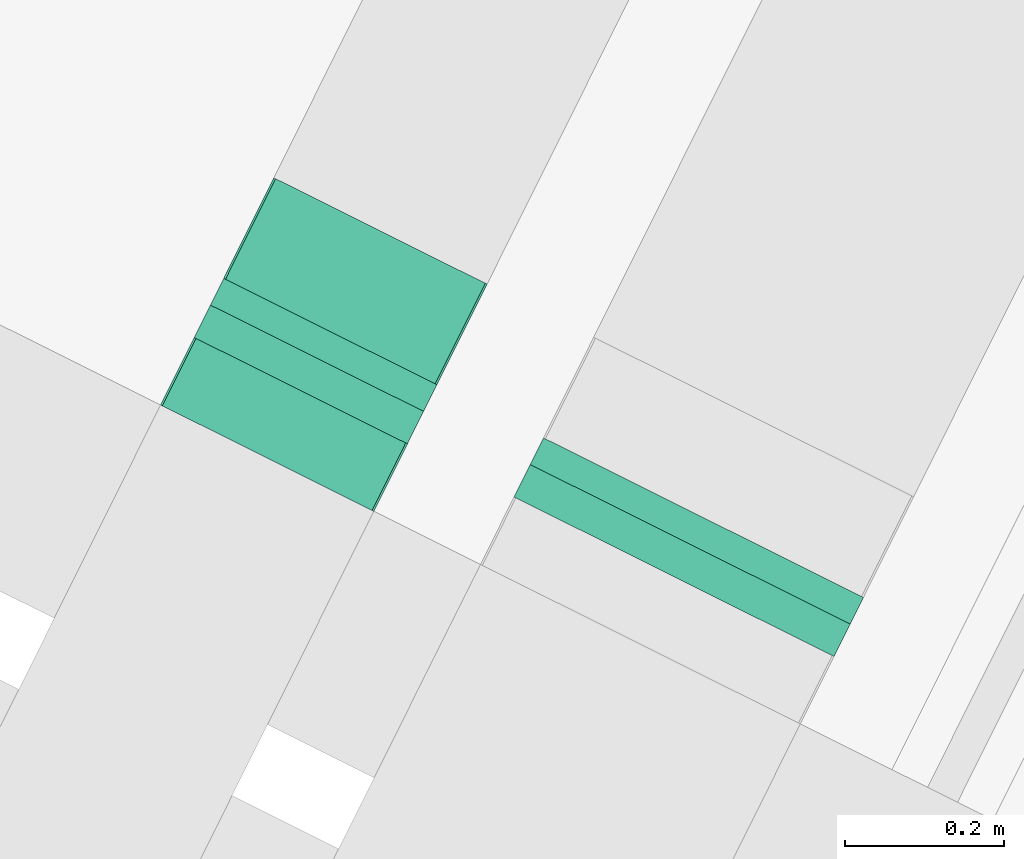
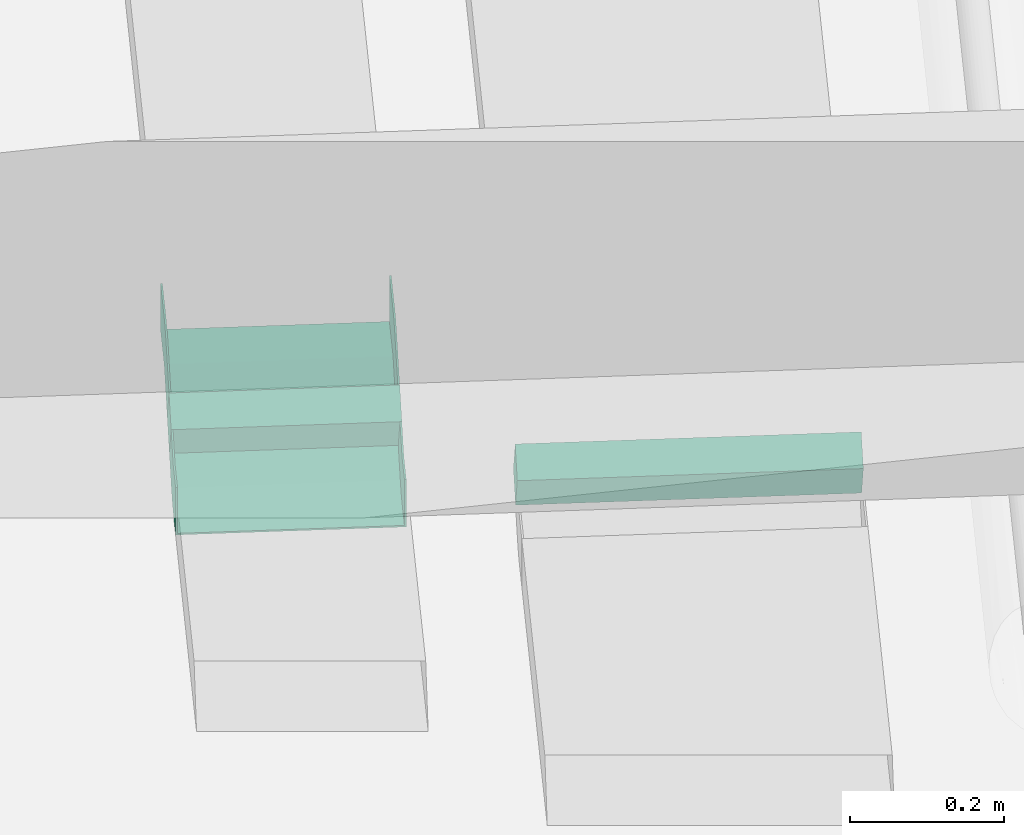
# One storey, part 31 of 47: 2 flow fittings, 2 flow segments.
"""IFC2X3 building model written with IfcOpenShell, lengths in metres."""

import ifcopenshell
import ifcopenshell.guid

model = None  # the IFC model being written
_history = None  # IfcOwnerHistory: only IFC2X3 demands one
_inside = {}  # id of a spatial element -> (the spatial element, [elements in it])
_under = {}  # id of a project, library or spatial element -> (it, [spatial elements below it])
_declared = {}  # id of a project -> (the project, [libraries it declares])
_typed = {}  # id of a type object -> (the type object, [elements of that type])
_made_of = {}  # id of a material, layer set ... -> (it, [elements and type objects made of it])


def new_model(schema):
    """Start an empty IFC model of exactly this schema.

    Asked for "IFC4X3", IfcOpenShell would pick the latest addendum, in which some entities
    have other attributes; the version numbers below select the first issue.
    IFC2X3 requires an IfcOwnerHistory on every rooted entity: one is made here for all.
    """
    global model, _history
    if schema == "IFC4X3":
        model = ifcopenshell.file(schema_version=(4, 3, 0, 0))
    else:
        model = ifcopenshell.file(schema=schema)
    _inside.clear()
    _under.clear()
    _declared.clear()
    _typed.clear()
    _made_of.clear()
    _history = None
    if model.schema == "IFC2X3":
        org = make("IfcOrganization", Name="unknown")
        user = make(
            "IfcPersonAndOrganization",
            ThePerson=make("IfcPerson", FamilyName="unknown"),
            TheOrganization=org,
        )
        app = make(
            "IfcApplication",
            ApplicationDeveloper=org,
            Version="unknown",
            ApplicationFullName="unknown",
            ApplicationIdentifier="unknown",
        )
        _history = make(
            "IfcOwnerHistory",
            OwningUser=user,
            OwningApplication=app,
            ChangeAction="ADDED",
            CreationDate=0,
        )
    return model


def make(cls, **values):
    """One entity of the class cls with the attributes given. An attribute that is None is left unset."""
    return model.create_entity(
        cls, **{name: value for name, value in values.items() if value is not None}
    )


def entity(cls, *values):
    """Any entity or typed value of the class cls, its attributes in the order of the schema. None: left unset."""
    e = model.create_entity(cls)
    for i, value in enumerate(values):
        if value is not None:
            e[i] = value
    return e


def rooted(cls, **values):
    """An entity with a GlobalId (a new one), such as an element, a storey or a relation."""
    return make(cls, GlobalId=ifcopenshell.guid.new(), OwnerHistory=_history, **values)


def si_unit(unit_type, name, prefix=None):
    """IfcSIUnit, for example si_unit("LENGTHUNIT", "METRE", prefix="MILLI")."""
    return make("IfcSIUnit", UnitType=unit_type, Prefix=prefix, Name=name)


def converted_unit(unit_type, name, factor, base, dimensions=None, offset=None):
    """IfcConversionBasedUnit, such as the inch: factor (a typed value) times the base unit."""
    return make(
        "IfcConversionBasedUnit"
        if offset is None
        else "IfcConversionBasedUnitWithOffset",
        ConversionOffset=offset,
        Dimensions=None
        if dimensions is None
        else entity("IfcDimensionalExponents", *dimensions),
        UnitType=unit_type,
        Name=name,
        ConversionFactor=make(
            "IfcMeasureWithUnit", ValueComponent=factor, UnitComponent=base
        ),
    )


def derived_unit(unit_type, elements):
    """IfcDerivedUnit: a product of units, each with its exponent."""
    return make(
        "IfcDerivedUnit",
        Elements=[
            make("IfcDerivedUnitElement", Unit=unit, Exponent=power)
            for unit, power in elements
        ],
        UnitType=unit_type,
    )


def assignment(units):
    """IfcUnitAssignment: the units of a project."""
    return None if units is None else make("IfcUnitAssignment", Units=units)


def point(xyz):
    """IfcCartesianPoint."""
    return None if xyz is None else make("IfcCartesianPoint", Coordinates=xyz)


def direction(xyz):
    """IfcDirection."""
    return None if xyz is None else make("IfcDirection", DirectionRatios=xyz)


def frame(location, z_axis=None, x_axis=None):
    """IfcAxis2Placement3D, a coordinate frame: its origin and axes. An axis left out is left unset."""
    return make(
        "IfcAxis2Placement3D",
        Location=point(location),
        Axis=direction(z_axis),
        RefDirection=direction(x_axis),
    )


def frame_2d(location, x_axis=None):
    """IfcAxis2Placement2D, a coordinate frame in the plane: its origin and x axis."""
    return make(
        "IfcAxis2Placement2D", Location=point(location), RefDirection=direction(x_axis)
    )


def origin():
    """The frame at (0, 0, 0) with its axes left unset."""
    return frame((0.0, 0.0, 0.0))


def place(relative_to, where):
    """IfcLocalPlacement: puts the frame where relative to a parent placement (None: the world)."""
    return make(
        "IfcLocalPlacement", PlacementRelTo=relative_to, RelativePlacement=where
    )


def context(
    kind, dimensions, precision=None, world=None, true_north=None, identifier=None
):
    """IfcGeometricRepresentationContext, for example the 3D "Model" context."""
    return make(
        "IfcGeometricRepresentationContext",
        ContextIdentifier=identifier,
        ContextType=kind,
        CoordinateSpaceDimension=dimensions,
        Precision=precision,
        WorldCoordinateSystem=world,
        TrueNorth=true_north,
    )


def subcontext(parent, identifier, kind, view, scale=None):
    """IfcGeometricRepresentationSubContext, for example "Body" below "Model"."""
    return make(
        "IfcGeometricRepresentationSubContext",
        ContextIdentifier=identifier,
        ContextType=kind,
        ParentContext=parent,
        TargetScale=scale,
        TargetView=view,
    )


def project(units=None, contexts=None):
    """IfcProject with its units and contexts."""
    return rooted(
        "IfcProject",
        Name="project",
        RepresentationContexts=contexts,
        UnitsInContext=assignment(units),
    )


def spatial(cls, under=None, at=None, **own):
    """A site, building, storey or space (cls), placed at a placement, below another one or the project."""
    s = rooted(cls, ObjectPlacement=at, **own)
    if under is not None:
        _under.setdefault(under.id(), (under, []))[1].append(s)
    return s


def profile(cls, at=None, kind="AREA", **sizes):
    """A parametric profile (cls). Its sizes go by their IFC names, for example OverallWidth=200.0."""
    return make(cls, ProfileType=kind, Position=at, **sizes)


def rectangle(**sizes):
    """IfcRectangleProfileDef."""
    return profile("IfcRectangleProfileDef", **sizes)


def extrude(swept, where, along, depth):
    """IfcExtrudedAreaSolid: the profile swept, set in the frame where, extruded along a direction by depth."""
    return make(
        "IfcExtrudedAreaSolid",
        SweptArea=swept,
        Position=where,
        ExtrudedDirection=direction(along),
        Depth=depth,
    )


def faces_of(points, faces, orient=None, outer=None):
    """IfcFace entities. A face is a list of loops; a loop is a list of indices into points, from 0.

    orient and outer hold one flag for each loop. By default every Orientation is true, the
    first loop of a face is its IfcFaceOuterBound and the others are IfcFaceBound.
    """
    made = []
    for i, loops in enumerate(faces):
        bounds = []
        for j, loop in enumerate(loops):
            is_outer = j == 0 if outer is None else outer[i][j]
            bounds.append(
                make(
                    "IfcFaceOuterBound" if is_outer else "IfcFaceBound",
                    Bound=make("IfcPolyLoop", Polygon=[points[k] for k in loop]),
                    Orientation=True if orient is None else orient[i][j],
                )
            )
        made.append(make("IfcFace", Bounds=bounds))
    return made


def faceted_brep(points, faces, orient=None, outer=None, voids=None):
    """IfcFacetedBrep: a solid bounded by flat faces; with voids (closed shells), ...WithVoids."""
    shared = [point(p) for p in points]
    hull = make("IfcClosedShell", CfsFaces=faces_of(shared, faces, orient, outer))
    if voids is None:
        return make("IfcFacetedBrep", Outer=hull)
    return make(
        "IfcFacetedBrepWithVoids",
        Outer=hull,
        Voids=[
            make(cls, CfsFaces=faces_of(shared, fs, o, b)) for cls, fs, o, b in voids
        ],
    )


def shape(context_of_items, identifier, shape_type, items):
    """IfcShapeRepresentation: the items that make up one representation, for example the "Body"."""
    return make(
        "IfcShapeRepresentation",
        ContextOfItems=context_of_items,
        RepresentationIdentifier=identifier,
        RepresentationType=shape_type,
        Items=items,
    )


def source(mapping_origin, context_of_items, identifier, shape_type, items):
    """IfcRepresentationMap: a shape defined once, which mapped items show again and again."""
    return make(
        "IfcRepresentationMap",
        MappingOrigin=mapping_origin,
        MappedRepresentation=shape(context_of_items, identifier, shape_type, items),
    )


def transform(
    local_origin,
    x_axis=None,
    y_axis=None,
    z_axis=None,
    scale=None,
    scale2=None,
    scale3=None,
    uniform=True,
):
    """IfcCartesianTransformationOperator3D, or its non-uniform kind. x_axis, y_axis, z_axis: its Axis1, 2, 3."""
    if uniform:
        return make(
            "IfcCartesianTransformationOperator3D",
            Axis1=direction(x_axis),
            Axis2=direction(y_axis),
            LocalOrigin=point(local_origin),
            Scale=scale,
            Axis3=direction(z_axis),
        )
    return make(
        "IfcCartesianTransformationOperator3DnonUniform",
        Axis1=direction(x_axis),
        Axis2=direction(y_axis),
        LocalOrigin=point(local_origin),
        Scale=scale,
        Axis3=direction(z_axis),
        Scale2=scale2,
        Scale3=scale3,
    )


def mapped(mapping_source, mapping_target):
    """IfcMappedItem: shows the shape of a source again, moved by a transform."""
    return make(
        "IfcMappedItem", MappingSource=mapping_source, MappingTarget=mapping_target
    )


def made_of(thing, what):
    """Note that an element or type object is made of a material, layer set ...; save() writes the relation."""
    if what is not None:
        _made_of.setdefault(what.id(), (what, []))[1].append(thing)
    return thing


def type_object(cls, material=None, **own):
    """A type object (cls), such as IfcWallType, which elements share."""
    return made_of(rooted(cls, **own), material)


def type_shapes(of_type, sources):
    """Give a type object the sources (RepresentationMaps) that its elements show as mapped items."""
    of_type.RepresentationMaps = sources


def element(
    cls,
    number,
    at=None,
    inside=None,
    cuts=None,
    type_object=None,
    material=None,
    context=None,
    identifier="Body",
    shape_type=None,
    held_by="IfcProductDefinitionShape",
    body=None,
    shapes=None,
    **own,
):
    """One element of the class cls, such as IfcWall. Its Tag is "e" and its number.

    at: its placement. inside: the storey or other place that contains it. cuts: it is an
    opening in that element (IfcRelVoidsElement). A single representation is given by context,
    identifier, shape_type and body (its items); several are given by shapes. held_by: the class
    of the entity that holds the representations. save() writes the other relations.
    """
    e = rooted(cls, Tag="e%d" % number, ObjectPlacement=at, **own)
    if body is not None:
        shapes = [shape(context, identifier, shape_type, body)]
    if shapes is not None:
        e.Representation = make(held_by, Representations=shapes)
    if inside is not None:
        _inside.setdefault(inside.id(), (inside, []))[1].append(e)
    if cuts is not None:
        rooted(
            "IfcRelVoidsElement", RelatingBuildingElement=cuts, RelatedOpeningElement=e
        )
    if type_object is not None:
        _typed.setdefault(type_object.id(), (type_object, []))[1].append(e)
    return made_of(e, material)


def aggregate(whole, parts):
    """IfcRelAggregates: a whole, such as a stair, and the parts it consists of."""
    return rooted("IfcRelAggregates", RelatingObject=whole, RelatedObjects=parts)


def save(model, path):
    """Write the relations noted so far, then the file.

    IfcRelAggregates (storeys below a building ...), IfcRelContainedInSpatialStructure (elements
    in a storey), IfcRelDefinesByType, IfcRelAssociatesMaterial and IfcRelDeclares: one each for
    every whole, place, type object, material and project.
    """
    for whole, parts in _under.values():
        aggregate(whole, parts)
    for where, things in _inside.values():
        rooted(
            "IfcRelContainedInSpatialStructure",
            RelatedElements=things,
            RelatingStructure=where,
        )
    for kind, things in _typed.values():
        rooted("IfcRelDefinesByType", RelatedObjects=things, RelatingType=kind)
    for what, things in _made_of.values():
        rooted("IfcRelAssociatesMaterial", RelatedObjects=things, RelatingMaterial=what)
    for by, libraries in _declared.values():
        rooted("IfcRelDeclares", RelatingContext=by, RelatedDefinitions=libraries)
    model.write(path)


model = new_model("IFC2X3")

# Units and contexts
model_context = context("Model", 3, precision=1e-05, world=origin(), true_north=direction((0.894925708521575, 0.446215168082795)))
context_of_model = context(None, 3, precision=1e-05, world=origin(), true_north=direction((0.894925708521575, 0.446215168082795)))
body_context = subcontext(model_context, "Body", "Model", "MODEL_VIEW")
ifc_project = project(units=[si_unit("LENGTHUNIT", "METRE"), si_unit("AREAUNIT", "SQUARE_METRE"), si_unit("VOLUMEUNIT", "CUBIC_METRE"), converted_unit("PLANEANGLEUNIT", "DEGREE", entity("IfcRatioMeasure", 0.0174532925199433), si_unit("PLANEANGLEUNIT", "RADIAN"), dimensions=[0, 0, 0, 0, 0, 0, 0]), si_unit("MASSUNIT", "GRAM", prefix="KILO"), si_unit("TIMEUNIT", "SECOND"), si_unit("FREQUENCYUNIT", "HERTZ"), si_unit("THERMODYNAMICTEMPERATUREUNIT", "DEGREE_CELSIUS"), derived_unit("THERMALTRANSMITTANCEUNIT", [(si_unit("MASSUNIT", "GRAM", prefix="KILO"), 1), (si_unit("THERMODYNAMICTEMPERATUREUNIT", "KELVIN"), -1), (si_unit("TIMEUNIT", "SECOND"), -3)]), derived_unit("VOLUMETRICFLOWRATEUNIT", [(si_unit("LENGTHUNIT", "METRE"), 3), (si_unit("TIMEUNIT", "SECOND"), -1)]), si_unit("ELECTRICCURRENTUNIT", "AMPERE"), si_unit("ELECTRICVOLTAGEUNIT", "VOLT"), si_unit("POWERUNIT", "WATT"), si_unit("FORCEUNIT", "NEWTON", prefix="KILO"), si_unit("ILLUMINANCEUNIT", "LUX"), si_unit("LUMINOUSFLUXUNIT", "LUMEN"), si_unit("LUMINOUSINTENSITYUNIT", "CANDELA"), si_unit("PRESSUREUNIT", "PASCAL")], contexts=[model_context, context_of_model])

# Site, building, storey
site_placement = place(None, frame((218.228324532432, 584.720189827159, 0.0), z_axis=(0.0, 0.0, 1.0), x_axis=(0.446215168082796, 0.894925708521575, 0.0)))
site = spatial("IfcSite", under=ifc_project, at=site_placement, Name="Default", CompositionType="ELEMENT")
building_placement = place(site_placement, origin())
building = spatial("IfcBuilding", under=site, at=building_placement, CompositionType="ELEMENT")
storey_placement = place(building_placement, frame((0.0, 0.0, 4.69)))
storey = spatial("IfcBuildingStorey", under=building, at=storey_placement, Name="1 - Piano Primo", CompositionType="ELEMENT", Elevation=4.69)

# Flow segments
cable_carrier_segment_type = type_object("IfcCableCarrierSegmentType", Name="Passerella con raccordi:Passerella canale", PredefinedType="NOTDEFINED")
flow_segment_1_placement = place(storey_placement, frame((11.5890862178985, -3.35107899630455, 2.92822448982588)))
element("IfcFlowSegment", 1, at=flow_segment_1_placement, inside=storey, type_object=cable_carrier_segment_type, Name="Passerella con raccordi:Passerella canale", ObjectType="Passerella con raccordi:Passerella canale", context=body_context, shape_type="SweptSolid", body=[
    extrude(rectangle(XDim=0.0749999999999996, YDim=0.0527002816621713, at=frame_2d((-2.70616862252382e-16, 4.68375338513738e-16), x_axis=(0.0, 1.0))), frame((0.0415698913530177, 0.0, 0.0456510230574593), z_axis=(0.0, 1.0, 0.0), x_axis=(0.866025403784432, 0.0, 0.500000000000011)), (0.0, 0.0, 1.0), 0.3),
])
flow_segment_2_placement = place(storey_placement, frame((11.5890862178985, -3.95107899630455, 2.82822448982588)))
element("IfcFlowSegment", 2, at=flow_segment_2_placement, inside=storey, type_object=cable_carrier_segment_type, Name="Passerella con raccordi:Passerella canale", ObjectType="Passerella con raccordi:Passerella canale", context=body_context, shape_type="SweptSolid", body=[
    extrude(rectangle(XDim=0.0749999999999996, YDim=0.0527002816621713, at=frame_2d((0.0, 0.0), x_axis=(0.0, 1.0))), frame((0.0415698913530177, 0.0, 0.0456510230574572), z_axis=(0.0, 1.0, 0.0), x_axis=(0.866025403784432, 0.0, 0.500000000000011)), (0.0, 0.0, 1.0), 0.450000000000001),
])

# Flow fittings
cable_carrier_fitting_type_1 = type_object("IfcCableCarrierFittingType", Name="Standard", PredefinedType="NOTDEFINED")
shared_shape_1 = source(origin(), body_context, "Body", "Brep", [
    faceted_brep([(-0.0608988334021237, -0.0349600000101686, -0.147460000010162), (-0.0608988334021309, 0.0374999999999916, -0.147460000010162), (-0.0608988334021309, 0.0374999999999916, -0.150000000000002), (-0.0608988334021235, -0.0375000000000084, -0.150000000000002), (-0.0608988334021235, -0.0375000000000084, 0.149999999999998), (-0.0608988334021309, 0.0374999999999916, 0.149999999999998), (-0.0608988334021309, 0.0374999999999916, 0.147460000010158), (-0.0608988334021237, -0.0349600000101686, 0.147460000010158), (0.0339899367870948, 0.0629253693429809, -0.150000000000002), (0.0339899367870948, 0.0629253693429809, -0.147460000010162), (0.0702199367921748, 0.000173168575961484, -0.147460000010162), (0.0702199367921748, 0.000173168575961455, 0.147460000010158), (0.0339899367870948, 0.0629253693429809, 0.147460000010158), (0.0339899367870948, 0.0629253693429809, 0.149999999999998), (0.0714899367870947, -0.00202653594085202, 0.149999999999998), (0.0714899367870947, -0.00202653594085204, -0.150000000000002), (-0.0108988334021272, -0.0375000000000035, 0.149999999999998), (0.00933434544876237, -0.0348362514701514, 0.149999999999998), (0.0281886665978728, -0.027026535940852, 0.149999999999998), (-0.00931133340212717, 0.0379253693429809, 0.149999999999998), (-0.0100770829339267, 0.0376081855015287, 0.149999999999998), (-0.0108988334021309, 0.0374999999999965, 0.149999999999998), (-0.0108988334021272, -0.0375000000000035, -0.150000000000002), (-0.0108988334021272, -0.0375000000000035, -0.00436238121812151), (-0.0108988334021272, 0.0374999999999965, -0.150000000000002), (-0.0100770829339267, 0.0376081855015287, -0.150000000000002), (-0.00931133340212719, 0.037925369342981, -0.150000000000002), (0.0281886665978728, -0.027026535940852, -0.150000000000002), (0.00933434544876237, -0.0348362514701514, -0.150000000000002), (-0.0108988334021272, 0.0374999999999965, -0.147460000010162), (-0.0108988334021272, 0.0374999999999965, 0.147460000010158), (-0.0108988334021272, -0.0349600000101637, -0.147460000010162), (0.00867694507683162, -0.0323827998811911, -0.147460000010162), (0.0269186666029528, -0.0248268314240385, -0.147460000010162), (-0.00931133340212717, 0.0379253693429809, -0.147460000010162), (-0.0100770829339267, 0.0376081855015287, -0.147460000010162), (-0.0108988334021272, -0.0349600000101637, 0.147460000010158), (-0.0108988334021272, -0.0349600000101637, -0.00437396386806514), (-0.0100770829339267, 0.0376081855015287, 0.147460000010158), (-0.00931133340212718, 0.0379253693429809, 0.147460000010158), (0.0269186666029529, -0.0248268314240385, 0.147460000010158), (0.00867694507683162, -0.0323827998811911, 0.147460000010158), (0.00517118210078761, -0.0358304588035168, 0.0), (0.0281886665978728, -0.027026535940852, -0.00436237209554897), (0.00483151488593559, -0.0333061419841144, 0.0), (0.0269186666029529, -0.0248268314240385, -0.00437395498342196)], [[[0, 1, 2, 3, 4, 5, 6, 7]], [[8, 9, 10, 11, 12, 13, 14, 15]], [[4, 16, 17, 18, 14, 13, 19, 20, 21, 5]], [[4, 3, 22, 23, 16]], [[2, 24, 25, 26, 8, 15, 27, 28, 22, 3]], [[2, 1, 29, 24]], [[6, 5, 21, 30]], [[0, 31, 32, 33, 10, 9, 34, 35, 29, 1]], [[0, 7, 36, 37, 31]], [[6, 30, 38, 39, 12, 11, 40, 41, 36, 7]], [[16, 23, 22, 42]], [[43, 28, 27]], [[43, 18, 17]], [[42, 22, 28]], [[43, 17, 42]], [[43, 42, 28]], [[16, 42, 17]], [[29, 35, 25, 24]], [[20, 38, 30, 21]], [[34, 26, 25, 35]], [[19, 39, 38, 20]], [[44, 31, 37, 36]], [[33, 32, 45]], [[41, 40, 45]], [[32, 31, 44]], [[44, 41, 45]], [[32, 44, 45]], [[41, 44, 36]], [[15, 14, 18, 43, 27]], [[26, 34, 9, 8]], [[39, 19, 13, 12]], [[11, 10, 33, 45, 40]]]),
])
type_shapes(cable_carrier_fitting_type_1, [shared_shape_1])
flow_fitting_1_placement = place(storey_placement, frame((11.5550962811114, -3.20107899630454, 2.93025102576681), z_axis=(0.0, -1.0, 0.0), x_axis=(1.0, 0.0, 0.0)))
element("IfcFlowFitting", 3, at=flow_fitting_1_placement, inside=storey, type_object=cable_carrier_fitting_type_1, Name="M_Curvatura interna verticale canale:Standard", ObjectType="Standard", context=body_context, shape_type="MappedRepresentation", body=[
    mapped(shared_shape_1, transform((0.0, 0.0, 0.0), scale=1.0)),
])
cable_carrier_fitting_type_2 = type_object("IfcCableCarrierFittingType", Name="Standard", PredefinedType="NOTDEFINED")
shared_shape_2 = source(origin(), body_context, "Body", "Brep", [
    faceted_brep([(-0.0858988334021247, -0.0375000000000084, -0.150000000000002), (-0.0858988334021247, -0.0375000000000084, -0.147460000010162), (-0.0858988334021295, 0.0349600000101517, -0.147460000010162), (-0.0858988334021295, 0.0349600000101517, 0.147460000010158), (-0.0858988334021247, -0.0375000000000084, 0.147460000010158), (-0.0858988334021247, -0.0375000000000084, 0.149999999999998), (-0.0858988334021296, 0.0374999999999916, 0.149999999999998), (-0.0858988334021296, 0.0374999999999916, -0.150000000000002), (0.0556405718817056, 0.0754253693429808, -0.150000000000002), (0.0556405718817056, 0.0754253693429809, 0.149999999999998), (0.0931405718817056, 0.0104734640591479, 0.149999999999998), (0.0931405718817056, 0.0104734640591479, 0.147460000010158), (0.0569105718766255, 0.0732256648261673, 0.147460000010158), (0.0569105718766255, 0.0732256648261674, -0.147460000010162), (0.0931405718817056, 0.0104734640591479, -0.147460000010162), (0.0931405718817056, 0.0104734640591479, -0.150000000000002), (-0.0108988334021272, -0.0375000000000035, 0.149999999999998), (-0.000782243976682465, -0.0361681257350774, 0.149999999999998), (0.0093343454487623, -0.0348362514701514, 0.149999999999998), (0.0187615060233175, -0.0309313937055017, 0.149999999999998), (0.0281886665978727, -0.027026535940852, 0.149999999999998), (-0.00931133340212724, 0.0379253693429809, 0.149999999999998), (-0.0100770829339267, 0.0376081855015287, 0.149999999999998), (-0.0108988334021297, 0.0374999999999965, 0.149999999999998), (-0.0108988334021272, 0.0374999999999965, 0.142222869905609), (-0.0108988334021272, 0.0374999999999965, 0.136736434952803), (-0.0108988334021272, 0.0374999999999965, 0.131249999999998), (-0.0108988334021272, 0.0374999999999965, 0.121874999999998), (-0.0108988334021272, 0.0374999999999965, 0.112499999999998), (-0.0108988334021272, 0.0374999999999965, 0.103124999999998), (-0.0108988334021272, 0.0374999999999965, 0.0937499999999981), (-0.0108988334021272, 0.0374999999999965, 0.0890624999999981), (-0.0108988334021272, 0.0374999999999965, 0.0843749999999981), (-0.0108988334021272, 0.0374999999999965, 0.0749999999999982), (-0.0108988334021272, 0.0374999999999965, 0.0656249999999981), (-0.0108988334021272, 0.0374999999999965, 0.0562499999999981), (-0.0108988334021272, 0.0374999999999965, 0.0468749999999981), (-0.0108988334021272, 0.0374999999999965, 0.0374999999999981), (-0.0108988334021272, 0.0374999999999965, 0.0328124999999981), (-0.0108988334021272, 0.0374999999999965, 0.0281249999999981), (-0.0108988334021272, 0.0374999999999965, 0.0187499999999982), (-0.0108988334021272, 0.0374999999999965, 0.00937499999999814), (-0.0108988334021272, 0.0374999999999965, 0.00468749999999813), (-0.0108988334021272, 0.0374999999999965, 0.0), (-0.0108988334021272, 0.0374999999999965, -0.00548643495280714), (-0.0108988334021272, 0.0374999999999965, -0.0109728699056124), (-0.0108988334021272, 0.0374999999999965, -0.0164593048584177), (-0.0108988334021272, 0.0374999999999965, -0.021945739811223), (-0.0108988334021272, 0.0374999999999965, -0.0274321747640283), (-0.0108988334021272, 0.0374999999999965, -0.0329186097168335), (-0.0108988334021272, 0.0374999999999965, -0.0384050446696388), (-0.0108988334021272, 0.0374999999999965, -0.0438914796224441), (-0.0108988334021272, 0.0374999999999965, -0.0493779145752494), (-0.0108988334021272, 0.0374999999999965, -0.0548643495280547), (-0.0108988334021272, 0.0374999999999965, -0.06035078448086), (-0.0108988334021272, 0.0374999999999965, -0.0658372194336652), (-0.0108988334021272, 0.0374999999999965, -0.0713236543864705), (-0.0108988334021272, 0.0374999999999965, -0.0768100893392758), (-0.0108988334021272, 0.0374999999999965, -0.0822965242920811), (-0.0108988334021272, 0.0374999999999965, -0.0877829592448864), (-0.0108988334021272, 0.0374999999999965, -0.0955600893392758), (-0.0108988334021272, 0.0374999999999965, -0.103337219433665), (-0.0108988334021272, 0.0374999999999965, -0.111114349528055), (-0.0108988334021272, 0.0374999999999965, -0.118891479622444), (-0.0108988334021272, 0.0374999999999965, -0.126668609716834), (-0.0108988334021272, 0.0374999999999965, -0.134445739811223), (-0.0108988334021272, 0.0374999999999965, -0.142222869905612), (-0.0108988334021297, 0.0374999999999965, -0.150000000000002), (-0.0100770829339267, 0.0376081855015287, -0.150000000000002), (-0.00931133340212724, 0.0379253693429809, -0.150000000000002), (0.0281886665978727, -0.027026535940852, -0.150000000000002), (0.0187615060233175, -0.0309313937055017, -0.150000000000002), (0.0093343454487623, -0.0348362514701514, -0.150000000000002), (-0.00136101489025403, -0.0362443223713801, -0.150000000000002), (-0.0108988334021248, -0.0375000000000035, -0.150000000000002), (-0.0108988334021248, -0.0375000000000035, -0.147460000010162), (-0.0108988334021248, -0.0375000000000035, 0.147460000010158), (-0.000782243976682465, -0.0361681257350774, -0.147460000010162), (0.0093343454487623, -0.0348362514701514, -0.147460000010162), (0.0187615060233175, -0.0309313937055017, -0.147460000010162), (0.0281886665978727, -0.027026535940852, -0.147460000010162), (-0.00804133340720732, 0.0357256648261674, -0.147460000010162), (-0.00941968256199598, 0.0351547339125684, -0.147460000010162), (-0.0108988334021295, 0.0349600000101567, -0.147460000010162), (-0.0108988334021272, 0.0349600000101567, -0.137025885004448), (-0.0108988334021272, 0.0349600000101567, -0.126591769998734), (-0.0108988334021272, 0.0349600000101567, -0.11615765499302), (-0.0108988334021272, 0.0349600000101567, -0.105723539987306), (-0.0108988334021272, 0.0349600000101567, -0.0952894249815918), (-0.0108988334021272, 0.0349600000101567, -0.0848553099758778), (-0.0108988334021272, 0.0349600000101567, -0.0744211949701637), (-0.0108988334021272, 0.0349600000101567, -0.0639870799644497), (-0.0108988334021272, 0.0349600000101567, -0.0479903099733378), (-0.0108988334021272, 0.0349600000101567, -0.0319935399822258), (-0.0108988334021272, 0.0349600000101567, -0.0159967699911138), (-0.0108988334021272, 0.0349600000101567, 0.0), (-0.0108988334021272, 0.0349600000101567, 0.0184325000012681), (-0.0108988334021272, 0.0349600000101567, 0.0368650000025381), (-0.0108988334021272, 0.0349600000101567, 0.0552975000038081), (-0.0108988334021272, 0.0349600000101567, 0.0737300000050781), (-0.0108988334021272, 0.0349600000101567, 0.0921625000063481), (-0.0108988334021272, 0.0349600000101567, 0.110595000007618), (-0.0108988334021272, 0.0349600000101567, 0.12659176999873), (-0.0108988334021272, 0.0349600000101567, 0.137025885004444), (-0.0108988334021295, 0.0349600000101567, 0.147460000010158), (-0.00941968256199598, 0.0351547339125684, 0.147460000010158), (-0.00804133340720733, 0.0357256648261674, 0.147460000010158), (0.0281886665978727, -0.027026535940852, 0.147460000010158), (0.0193008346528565, -0.0307079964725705, 0.147460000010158), (0.0093343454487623, -0.0348362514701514, 0.147460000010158), (-0.000782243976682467, -0.0361681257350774, 0.147460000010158), (-0.0100160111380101, 0.0376252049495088, 0.0878571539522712), (-0.00931133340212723, 0.0379253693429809, -0.0786763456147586), (-0.0101159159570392, 0.0375980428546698, -0.0740668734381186), (-0.00931133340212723, 0.0379253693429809, -0.0677034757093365), (-0.00931133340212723, 0.0379253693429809, -0.0731899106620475), (-0.00931133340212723, 0.0379253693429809, -0.0512441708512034), (-0.00931133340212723, 0.0379253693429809, -0.0567306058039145), (-0.0101159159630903, 0.0375980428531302, -0.052121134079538), (-0.00931133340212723, 0.0379253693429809, -0.0457577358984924), (-0.0100430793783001, 0.0376174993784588, 0.017385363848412), (-0.0100062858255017, 0.0376280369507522, 0.0107980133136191), (-0.00999532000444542, 0.0376312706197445, 0.122780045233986), (-0.0101719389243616, 0.0375843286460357, 0.0236284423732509), (-0.00931133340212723, 0.0379253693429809, 0.0200794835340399), (-0.00931133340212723, 0.0379253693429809, -0.146111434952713), (-0.00931133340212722, 0.0379253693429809, 0.134445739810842), (-0.0100770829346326, 0.0376081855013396, 0.138334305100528), (-0.00931133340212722, 0.0379253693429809, 0.14222286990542), (-0.0100060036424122, 0.0376281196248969, -0.142569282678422), (-0.010097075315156, 0.0376028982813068, 0.0605630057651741), (-0.00931133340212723, 0.0379253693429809, 0.0566744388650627), (-0.0100663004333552, 0.0376110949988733, 0.054247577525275), (-0.0100389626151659, 0.0376186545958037, -0.119824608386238), (-0.0101157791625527, 0.0375980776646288, -0.129790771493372), (-0.01011591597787, 0.0375980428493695, -0.0301753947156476), (-0.0100662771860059, 0.0376111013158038, 0.0824060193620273), (-0.00931133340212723, 0.0379253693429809, 0.0800058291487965), (-0.0099977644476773, 0.0376305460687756, 0.0761172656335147), (-0.0100563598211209, 0.0376138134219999, 0.0388108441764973), (-0.00931133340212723, 0.0379253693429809, 0.0411201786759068), (-0.00931133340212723, 0.0379253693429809, 0.0333430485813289), (-0.00931133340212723, 0.0379253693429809, -0.0347848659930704), (-0.00931133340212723, 0.0379253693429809, -0.0238119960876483), (-0.00931133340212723, 0.0379253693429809, -0.0292984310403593), (-0.00931133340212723, 0.0379253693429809, -0.0128391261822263), (-0.0101159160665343, 0.0375980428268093, -0.00822965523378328), (-0.00931133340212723, 0.0379253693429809, -0.00186625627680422), (-0.00931133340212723, 0.0379253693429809, -0.00735269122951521), (-0.010022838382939, 0.0376232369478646, 0.144167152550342), (-0.00931133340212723, 0.0379253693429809, 0.0488973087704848), (-0.0100105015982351, 0.0376268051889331, 0.0450087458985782), (-0.0100992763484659, 0.0376023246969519, 0.00234375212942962), (-0.0101111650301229, 0.0375992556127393, 0.06937590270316), (-0.00931133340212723, 0.0379253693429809, 0.0145930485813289), (-0.0100494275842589, 0.0376157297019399, -0.136209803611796), (-0.0101258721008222, 0.0375955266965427, -0.0371719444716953), (-0.00931133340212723, 0.0379253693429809, -0.0402713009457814), (-0.0100191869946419, 0.0376242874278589, -0.0434785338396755), (-0.0101258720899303, 0.0375955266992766, -0.0591176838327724), (-0.0100602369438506, 0.0376127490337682, -0.0934055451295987), (-0.0100098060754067, 0.0376270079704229, -0.11311245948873), (-0.010067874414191, 0.0376106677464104, 0.0994486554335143), (-0.0100492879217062, 0.0376157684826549, 0.0933153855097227), (-0.00931133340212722, 0.0379253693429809, 0.111114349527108), (-0.00931133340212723, 0.0379253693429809, 0.10333721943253), (-0.010108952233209, 0.0375998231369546, 0.109805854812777), (-0.0100522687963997, 0.0376149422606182, 0.132170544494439), (-0.00931133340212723, 0.0379253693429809, -0.13902713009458), (-0.010106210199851, 0.0376005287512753, 0.116092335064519), (-0.00931133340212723, 0.0379253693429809, -0.133540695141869), (-0.0101258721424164, 0.0375955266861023, -0.0152262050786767), (-0.0100191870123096, 0.0376242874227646, -0.0215327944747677), (-0.00931133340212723, 0.0379253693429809, -0.0183255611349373), (-0.0101258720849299, 0.0375955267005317, -0.0810634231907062), (-0.0100191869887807, 0.037624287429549, -0.0654242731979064), (-0.00931133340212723, 0.0379253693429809, -0.0622170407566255), (-0.00931133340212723, 0.0379253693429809, -0.0896492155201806), (-0.00931133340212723, 0.0379253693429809, -0.0951356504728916), (-0.0100191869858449, 0.0376242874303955, -0.0873700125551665), (-0.00931133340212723, 0.0379253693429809, -0.0841627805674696), (-0.00931133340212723, 0.0379253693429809, -0.122567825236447), (-0.00931133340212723, 0.0379253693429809, -0.117081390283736), (-0.0101042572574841, 0.0376010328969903, -0.105576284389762), (-0.00931133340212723, 0.0379253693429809, -0.106108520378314), (-0.00931133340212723, 0.0379253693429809, -0.111594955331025), (-0.00931133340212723, 0.0379253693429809, -0.100622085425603), (-0.00931133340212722, 0.0379253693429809, 0.126668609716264), (-0.00931133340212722, 0.0379253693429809, 0.118891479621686), (-0.00931133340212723, 0.0379253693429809, -0.128054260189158), (-0.00931133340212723, 0.0379253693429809, 0.0955600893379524), (-0.00931133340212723, 0.0379253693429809, 0.0877829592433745), (-0.00931133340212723, 0.0379253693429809, 0.0722286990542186), (-0.00931133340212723, 0.0379253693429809, 0.0644515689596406), (-0.0100612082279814, 0.0376124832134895, 0.0304687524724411), (-0.00931133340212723, 0.0379253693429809, 0.0255659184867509), (-0.00931133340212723, 0.0379253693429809, 0.00910661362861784), (-0.00931133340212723, 0.0379253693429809, 0.00362017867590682), (-0.0100571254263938, 0.0376136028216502, -0.0994486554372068), (-0.00941968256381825, 0.0351547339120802, -0.0559886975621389), (-0.00804133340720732, 0.0357256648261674, -0.0535529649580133), (-0.00943516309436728, 0.0351506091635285, -0.0450563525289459), (-0.00941968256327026, 0.035154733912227, -0.0670727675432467), (-0.00941968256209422, 0.0351547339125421, -0.131808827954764), (-0.00941968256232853, 0.0351547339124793, -0.118338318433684), (-0.00941968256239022, 0.0351547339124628, -0.107538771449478), (-0.00941968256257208, 0.0351547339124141, -0.0931087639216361), (-0.00941968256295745, 0.0351547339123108, -0.0796382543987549), (-0.00804133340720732, 0.0357256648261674, 0.131463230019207), (-0.00951383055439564, 0.0351303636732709, 0.119704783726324), (-0.00804133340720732, 0.0357256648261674, 0.115466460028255), (-0.009539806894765, 0.035123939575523, 0.0276487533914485), (-0.00938820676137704, 0.0351632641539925, 0.0142687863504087), (-0.00944772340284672, 0.0351472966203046, 0.0964175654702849), (-0.00938732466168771, 0.0351635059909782, 0.00298298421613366), (-0.00804133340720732, 0.0357256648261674, -0.137025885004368), (-0.00804133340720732, 0.0357256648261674, -0.126591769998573), (-0.00804133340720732, 0.0357256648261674, -0.116157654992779), (-0.00804133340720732, 0.0357256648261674, -0.105723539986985), (-0.00804133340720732, 0.0357256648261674, -0.0952894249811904), (-0.00804133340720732, 0.0357256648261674, -0.0848553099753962), (-0.00804133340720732, 0.0357256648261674, -0.0744211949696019), (-0.00804133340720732, 0.0357256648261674, -0.0639870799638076), (-0.00960988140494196, 0.0351072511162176, 0.0843997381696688), (-0.00931691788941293, 0.0351833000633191, 0.0731869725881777), (-0.00804133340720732, 0.0357256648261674, -0.0326847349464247), (-0.00804133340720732, 0.0357256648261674, -0.0222506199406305), (-0.00939822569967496, 0.0351605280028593, -0.0274676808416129), (-0.00938352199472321, 0.0351645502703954, 0.0609207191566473), (-0.00804133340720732, 0.0357256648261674, 0.0194858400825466), (-0.00804133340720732, 0.0357256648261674, 0.0354826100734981), (-0.0092916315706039, 0.0351906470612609, -0.0159019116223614), (-0.00950624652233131, 0.0351322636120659, 0.131808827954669), (-0.0092516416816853, 0.0352025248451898, 0.107597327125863), (-0.00804133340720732, 0.0357256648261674, 0.0834729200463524), (-0.00804133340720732, 0.0357256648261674, 0.0994696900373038), (-0.00804133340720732, 0.0357256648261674, 0.0674761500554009), (-0.00804133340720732, 0.0357256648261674, -0.043118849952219), (-0.00939896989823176, 0.0351603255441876, 0.0385250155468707), (-0.00953825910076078, 0.0351243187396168, 0.0497283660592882), (-0.00804133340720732, 0.0357256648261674, 0.00905172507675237), (-0.00804133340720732, 0.0357256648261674, -0.0118165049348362), (-0.00804133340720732, 0.0357256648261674, -0.00138238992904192), (-0.00804133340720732, 0.0357256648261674, 0.0514793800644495)], [[[0, 1, 2, 3, 4, 5, 6, 7]], [[8, 9, 10, 11, 12, 13, 14, 15]], [[5, 16, 17, 18, 19, 20, 10, 9, 21, 22, 23, 6]], [[7, 6, 23, 24, 25, 26, 27, 28, 29, 30, 31, 32, 33, 34, 35, 36, 37, 38, 39, 40, 41, 42, 43, 44, 45, 46, 47, 48, 49, 50, 51, 52, 53, 54, 55, 56, 57, 58, 59, 60, 61, 62, 63, 64, 65, 66, 67]], [[7, 67, 68, 69, 8, 15, 70, 71, 72, 73, 74, 0]], [[1, 0, 74, 75]], [[5, 4, 76, 16]], [[1, 75, 77, 78, 79, 80, 14, 13, 81, 82, 83, 2]], [[3, 2, 83, 84, 85, 86, 87, 88, 89, 90, 91, 92, 93, 94, 95, 96, 97, 98, 99, 100, 101, 102, 103, 104]], [[3, 104, 105, 106, 12, 11, 107, 108, 109, 110, 76, 4]], [[31, 111, 32]], [[112, 113, 114, 115]], [[116, 117, 118, 119]], [[57, 56, 113]], [[53, 52, 118]], [[120, 121, 41]], [[122, 27, 26]], [[123, 124, 120]], [[125, 69, 68]], [[126, 127, 128]], [[68, 129, 125]], [[130, 131, 132]], [[133, 134, 64]], [[49, 48, 135]], [[136, 137, 138]], [[139, 140, 141]], [[142, 135, 143, 144]], [[145, 146, 147, 148]], [[149, 128, 127]], [[150, 151, 132]], [[152, 147, 146]], [[33, 153, 34]], [[151, 140, 139]], [[120, 154, 121]], [[129, 66, 155]], [[156, 157, 158]], [[118, 117, 159]], [[59, 160, 60]], [[161, 63, 62]], [[34, 153, 130]], [[162, 163, 30]], [[164, 165, 166]], [[26, 25, 167]], [[129, 168, 125]], [[169, 164, 166]], [[127, 24, 149]], [[155, 134, 170]], [[127, 126, 167]], [[65, 155, 66]], [[149, 24, 23]], [[68, 67, 66]], [[25, 24, 127]], [[149, 22, 21]], [[146, 145, 171]], [[135, 142, 156]], [[172, 171, 173]], [[113, 112, 174]], [[175, 159, 176]], [[177, 178, 160]], [[179, 174, 180]], [[127, 167, 25]], [[155, 168, 129]], [[66, 129, 68]], [[170, 168, 155]], [[133, 181, 134]], [[161, 182, 133]], [[65, 134, 155]], [[183, 161, 62]], [[133, 63, 161]], [[181, 133, 182]], [[63, 133, 64]], [[184, 185, 183, 186]], [[187, 122, 167]], [[42, 152, 44, 43]], [[122, 26, 167]], [[188, 122, 187]], [[169, 122, 188]], [[167, 126, 187]], [[189, 170, 134, 181]], [[28, 27, 169]], [[122, 169, 27]], [[166, 29, 28]], [[166, 28, 169]], [[169, 188, 164]], [[162, 190, 163]], [[190, 162, 165]], [[162, 29, 166]], [[165, 162, 166]], [[29, 162, 30]], [[138, 33, 136]], [[163, 190, 191]], [[32, 111, 136]], [[137, 192, 138]], [[32, 136, 33]], [[136, 191, 137]], [[192, 153, 138]], [[138, 153, 33]], [[131, 130, 193]], [[35, 130, 132]], [[153, 192, 193]], [[31, 30, 163]], [[193, 130, 153]], [[130, 35, 34]], [[191, 136, 111]], [[37, 151, 139]], [[36, 132, 151]], [[36, 35, 132]], [[140, 151, 150]], [[132, 131, 150]], [[36, 151, 37]], [[39, 194, 123]], [[38, 37, 139]], [[38, 194, 39]], [[123, 194, 195]], [[139, 141, 194]], [[139, 194, 38]], [[194, 141, 195]], [[123, 40, 39]], [[40, 123, 120]], [[40, 120, 41]], [[123, 195, 124]], [[42, 41, 121]], [[121, 196, 152]], [[121, 152, 42]], [[128, 149, 21]], [[171, 45, 146]], [[44, 146, 45]], [[48, 47, 46, 172]], [[171, 172, 46]], [[146, 44, 152]], [[152, 196, 197, 147]], [[172, 143, 135]], [[156, 49, 135]], [[172, 135, 48]], [[51, 50, 158, 52]], [[55, 54, 175, 56]], [[156, 158, 50]], [[158, 119, 118]], [[159, 53, 118]], [[158, 118, 52]], [[159, 175, 54]], [[175, 114, 113]], [[174, 57, 113]], [[175, 113, 56]], [[61, 183, 62]], [[59, 58, 179]], [[174, 179, 58]], [[60, 198, 61]], [[179, 177, 160]], [[160, 178, 198]], [[61, 198, 183]], [[198, 186, 183]], [[124, 154, 120]], [[172, 173, 143]], [[158, 157, 119]], [[175, 176, 114]], [[179, 180, 177]], [[185, 161, 183]], [[179, 160, 59]], [[160, 198, 60]], [[121, 154, 196]], [[23, 22, 149]], [[185, 182, 161]], [[145, 173, 171]], [[142, 157, 156]], [[117, 176, 159]], [[112, 180, 174]], [[64, 134, 65]], [[111, 163, 191]], [[163, 111, 31]], [[46, 45, 171]], [[50, 49, 156]], [[54, 53, 159]], [[58, 57, 174]], [[198, 178, 186]], [[77, 75, 74, 73, 72, 78]], [[76, 110, 109, 18, 17, 16]], [[79, 78, 72, 71, 70, 80]], [[109, 108, 107, 20, 19, 18]], [[199, 200, 201]], [[202, 199, 92, 91, 90, 89, 88, 87, 86, 85, 84, 83, 82, 203, 204, 205, 206, 207]], [[105, 104, 103]], [[208, 209, 210]], [[211, 96, 212]], [[213, 101, 100]], [[95, 214, 212]], [[206, 205, 204, 203, 82, 81, 215, 216, 217, 218, 219, 220, 221, 222, 200, 199, 202, 207]], [[106, 105, 208]], [[223, 99, 224]], [[225, 226, 227]], [[99, 228, 224]], [[211, 229, 230]], [[231, 95, 94]], [[94, 227, 231]], [[208, 232, 209]], [[209, 101, 233]], [[105, 103, 232]], [[102, 232, 103]], [[232, 102, 209]], [[105, 232, 208]], [[102, 101, 209]], [[234, 235, 213]], [[233, 213, 235]], [[210, 209, 233]], [[234, 213, 223]], [[235, 210, 233]], [[101, 213, 233]], [[213, 100, 223]], [[100, 99, 223]], [[224, 228, 236]], [[201, 92, 199]], [[223, 224, 234]], [[211, 97, 96]], [[200, 237, 225, 201]], [[97, 211, 238]], [[97, 238, 239]], [[240, 212, 214]], [[229, 212, 240]], [[95, 212, 96]], [[229, 211, 212]], [[238, 211, 230]], [[93, 92, 201]], [[227, 94, 93]], [[227, 201, 225]], [[227, 226, 231]], [[201, 227, 93]], [[231, 226, 241, 242]], [[231, 242, 214]], [[230, 243, 238]], [[243, 228, 239]], [[228, 99, 98]], [[234, 224, 236]], [[239, 228, 98]], [[243, 236, 228]], [[97, 239, 98]], [[243, 239, 238]], [[231, 214, 95]], [[240, 214, 242]], [[9, 8, 69, 125, 168, 170, 189, 181, 182, 185, 184, 186, 178, 177, 180, 112, 115, 114, 176, 117, 116, 119, 157, 142, 144, 143, 173, 145, 148, 147, 197, 196, 154, 124, 195, 141, 140, 150, 131, 193, 192, 137, 191, 190, 165, 164, 188, 187, 126, 128, 21]], [[80, 70, 15, 14]], [[20, 107, 11, 10]], [[12, 106, 208, 210, 235, 234, 236, 243, 230, 229, 240, 242, 241, 226, 225, 237, 200, 222, 221, 220, 219, 218, 217, 216, 215, 81, 13]]]),
])
type_shapes(cable_carrier_fitting_type_2, [shared_shape_2])
flow_fitting_2_placement = place(storey_placement, frame((11.7278665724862, -3.20107899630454, 3.03000000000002), z_axis=(0.0, -1.0, 0.0), x_axis=(-1.0, 0.0, 0.0)))
element("IfcFlowFitting", 4, at=flow_fitting_2_placement, inside=storey, type_object=cable_carrier_fitting_type_2, Name="M_Curvatura esterna verticale canale:Standard", ObjectType="Standard", context=body_context, shape_type="MappedRepresentation", body=[
    mapped(shared_shape_2, transform((0.0, 0.0, 0.0), scale=1.0)),
])

save(model, "model.ifc")
